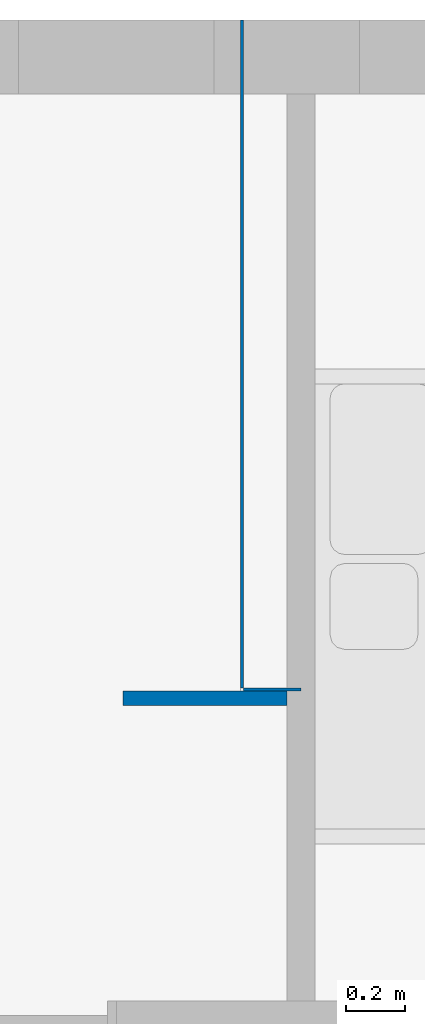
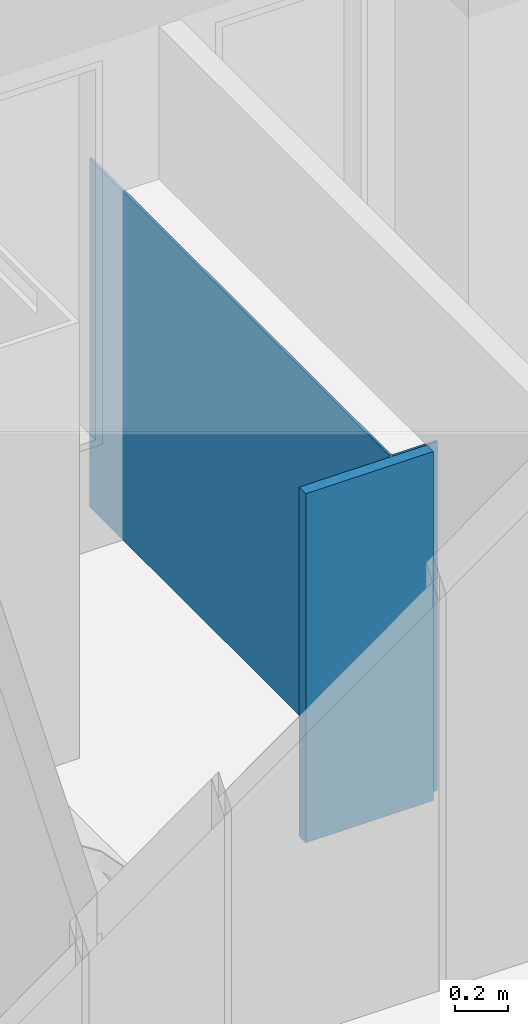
# One storey, part 4 of 17: 3 walls.
"""IFC2X3 building model written with IfcOpenShell, lengths in millimetres."""

from ifc_helpers import new_model, entity, si_unit, converted_unit, direction, frame, origin_with_axes, place, context, project, spatial, polyline, outline, extrude, material, layer, layer_set, layer_usage, type_object, element, save


model = new_model("IFC2X3")

# Units and contexts
model_context = context("Model", 3, precision=1e-05, world=origin_with_axes(), true_north=direction((0.0, 1.0)))
ifc_project = project(units=[si_unit("LENGTHUNIT", "METRE", prefix="MILLI"), si_unit("AREAUNIT", "SQUARE_METRE"), si_unit("VOLUMEUNIT", "CUBIC_METRE"), converted_unit("PLANEANGLEUNIT", "DEGREE", entity("IfcPlaneAngleMeasure", 0.017453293), si_unit("PLANEANGLEUNIT", "RADIAN"), dimensions=[0, 0, 0, 0, 0, 0, 0]), si_unit("SOLIDANGLEUNIT", "STERADIAN"), si_unit("MASSUNIT", "GRAM"), si_unit("TIMEUNIT", "SECOND"), si_unit("THERMODYNAMICTEMPERATUREUNIT", "DEGREE_CELSIUS"), si_unit("LUMINOUSINTENSITYUNIT", "LUMEN")], contexts=[model_context])

# Site, building, storey
site_placement = place(None, origin_with_axes())
site = spatial("IfcSite", under=ifc_project, at=site_placement, Name="\x83T\x83C\x83g", CompositionType="ELEMENT")
building_placement = place(site_placement, origin_with_axes())
building = spatial("IfcBuilding", under=site, at=building_placement, Name="Daitec-Sample 201208", CompositionType="ELEMENT")
storey_placement = place(building_placement, origin_with_axes())
storey = spatial("IfcBuildingStorey", under=building, at=storey_placement, Name="1F", CompositionType="ELEMENT", Elevation=0.0)

# Walls
ifc_material_1 = material(Name="\x83v\x83\x89\x83X\x83^\x81[\x83{\x81[\x83h")
ifc_layer_1 = layer(ifc_material_1, 10.0, ventilated="UNKNOWN")
ifc_layer_set_1 = layer_set([ifc_layer_1], Name="\x83v\x83\x89\x83X\x83^\x81[\x83{\x81[\x83h 10")
ifc_layer_usage_1 = layer_usage(ifc_layer_set_1, "AXIS2", "NEGATIVE", 0.0)
wall_type_1 = type_object("IfcWallType", Name="\x83v\x83\x89\x83X\x83^\x81[\x83{\x81[\x83h 10", PredefinedType="NOTDEFINED")
wall_1_placement = place(storey_placement, frame((22929.95, 23800.0, 0.0), z_axis=(0.0, 0.0, 1.0), x_axis=(0.0, -1.0, 0.0)))
element("IfcWallStandardCase", 1, at=wall_1_placement, inside=storey, type_object=wall_type_1, material=ifc_layer_usage_1, Name="W1", context=model_context, shape_type="SweptSolid", body=[
    extrude(outline(polyline([(0.0, -10.0), (2250.0, -10.0), (2250.0, 0.0), (0.0, 0.0), (0.0, -10.0)])), origin_with_axes(), (0.0, 0.0, 1.0), 1600.0),
])
ifc_layer_usage_2 = layer_usage(ifc_layer_set_1, "AXIS2", "NEGATIVE", 0.0)
wall_2_placement = place(storey_placement, frame((22929.95, 21550.0, 0.0), z_axis=(0.0, 0.0, 1.0), x_axis=(1.0, 0.0, 0.0)))
element("IfcWallStandardCase", 2, at=wall_2_placement, inside=storey, type_object=wall_type_1, material=ifc_layer_usage_2, Name="W2", context=model_context, shape_type="SweptSolid", body=[
    extrude(outline(polyline([(0.0, -10.0), (193.76793, -10.0), (193.76793, 0.0), (0.0, 0.0), (0.0, -10.0)])), origin_with_axes(), (0.0, 0.0, 1.0), 1600.0),
])
ifc_material_2 = material(Name="\x83R\x83\x93\x83N\x83\x8a\x81[\x83g-\x8cy\x97Ê")
ifc_layer_2 = layer(ifc_material_2, 50.0, ventilated="UNKNOWN")
ifc_layer_set_2 = layer_set([ifc_layer_2], Name="\x83R\x83\x93\x83N\x83\x8a\x81[\x83g-\x8cy\x97Ê 50")
ifc_layer_usage_3 = layer_usage(ifc_layer_set_2, "AXIS2", "POSITIVE", 0.0)
wall_type_2 = type_object("IfcWallType", Name="\x83R\x83\x93\x83N\x83\x8a\x81[\x83g-\x8cy\x97Ê 50", PredefinedType="NOTDEFINED")
wall_3_placement = place(storey_placement, frame((23123.718, 21540.0, 0.0), z_axis=(0.0, 0.0, 1.0), x_axis=(-1.0, 0.0, 0.0)))
element("IfcWallStandardCase", 3, at=wall_3_placement, inside=storey, type_object=wall_type_2, material=ifc_layer_usage_3, Name="W3", context=model_context, shape_type="SweptSolid", body=[
    extrude(outline(polyline([(47.5, 0.0), (600.0, 0.0), (600.0, 50.0), (47.5, 50.0), (47.5, 0.0)])), origin_with_axes(), (0.0, 0.0, 1.0), 1600.0),
])

save(model, "model.ifc")
